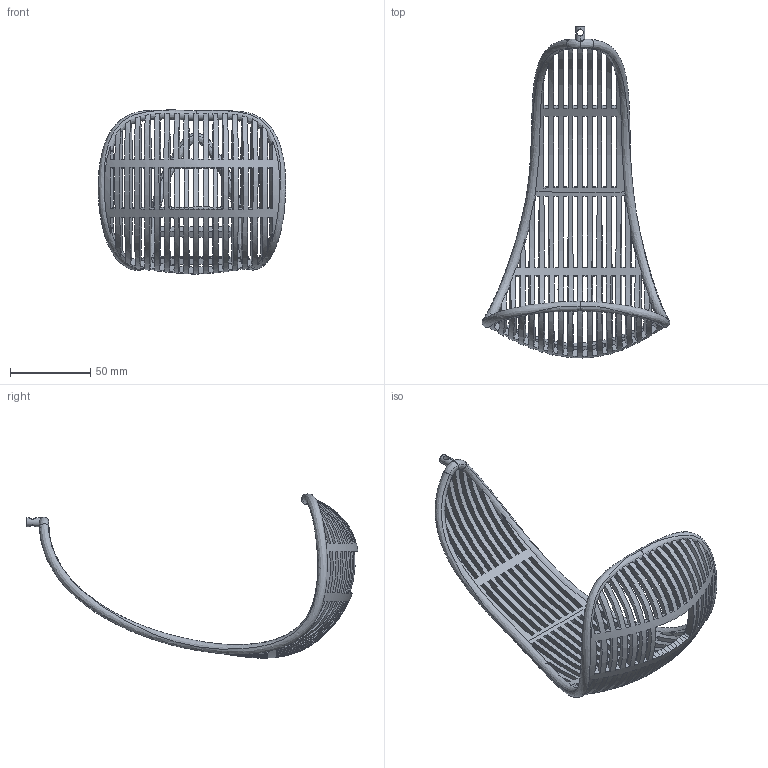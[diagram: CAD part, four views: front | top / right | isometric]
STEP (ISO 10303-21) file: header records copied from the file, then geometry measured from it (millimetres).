
FILE_DESCRIPTION (( 'STEP AP214' ), '1' );
FILE_NAME ('OnePlus_One_Swing_Stand-4.STEP', '2015-03-19T12:13:16', ( '' ), ( '' ), 'SwSTEP 2.0', 'SolidWorks 2014', '' );
FILE_SCHEMA (( 'AUTOMOTIVE_DESIGN' ));
Length unit declared in the file: millimetre
Products named in the file (1): OnePlus_One_Swing_Stand-4
Bounding box: 116.52 x 206.22 x 101.96 mm (x, y, z)
Volume: 64013.7 mm3; surface area: 59116.2 mm2
Topology: 1 solids, 1 shells, 316 faces, 1087 edges, 724 vertices
Faces by surface type: bspline 307, cylinder 4, plane 3, torus 2
Entity records: 51692 total; most frequent: CARTESIAN_POINT 45015, ORIENTED_EDGE 2174, EDGE_CURVE 1087, B_SPLINE_CURVE_WITH_KNOTS 1058, VERTEX_POINT 724, EDGE_LOOP 419, ADVANCED_FACE 316, FACE_OUTER_BOUND 316
